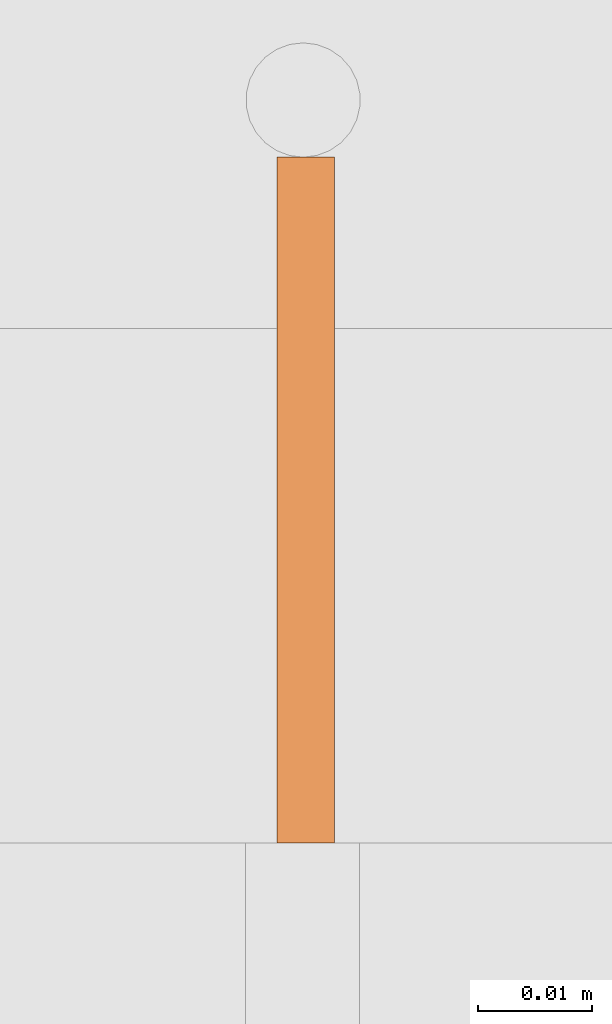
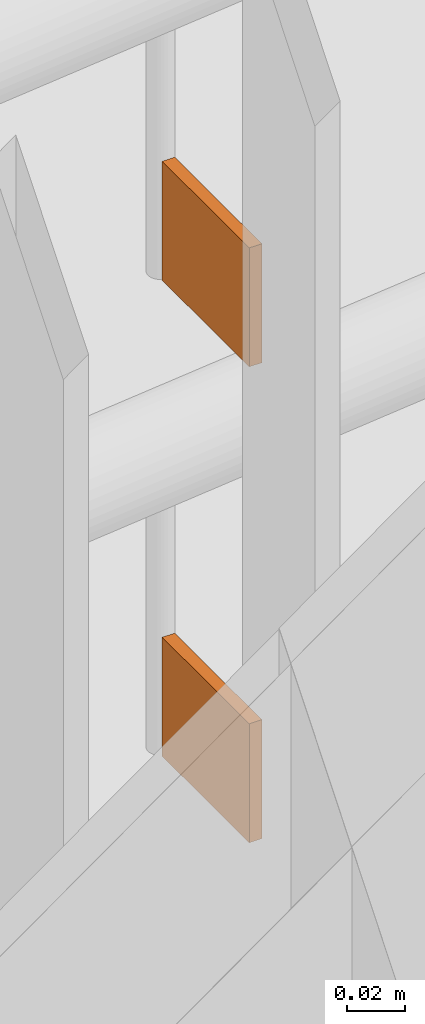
# One storey, part 378 of 418: 2 proxies.
"""IFC2X3 building model written with IfcOpenShell, lengths in millimetres."""

import ifcopenshell
import ifcopenshell.guid

model = None  # the IFC model being written
_history = None  # IfcOwnerHistory: only IFC2X3 demands one
_inside = {}  # id of a spatial element -> (the spatial element, [elements in it])
_under = {}  # id of a project, library or spatial element -> (it, [spatial elements below it])
_declared = {}  # id of a project -> (the project, [libraries it declares])
_typed = {}  # id of a type object -> (the type object, [elements of that type])
_made_of = {}  # id of a material, layer set ... -> (it, [elements and type objects made of it])


def new_model(schema):
    """Start an empty IFC model of exactly this schema.

    Asked for "IFC4X3", IfcOpenShell would pick the latest addendum, in which some entities
    have other attributes; the version numbers below select the first issue.
    IFC2X3 requires an IfcOwnerHistory on every rooted entity: one is made here for all.
    """
    global model, _history
    if schema == "IFC4X3":
        model = ifcopenshell.file(schema_version=(4, 3, 0, 0))
    else:
        model = ifcopenshell.file(schema=schema)
    _inside.clear()
    _under.clear()
    _declared.clear()
    _typed.clear()
    _made_of.clear()
    _history = None
    if model.schema == "IFC2X3":
        org = make("IfcOrganization", Name="unknown")
        user = make(
            "IfcPersonAndOrganization",
            ThePerson=make("IfcPerson", FamilyName="unknown"),
            TheOrganization=org,
        )
        app = make(
            "IfcApplication",
            ApplicationDeveloper=org,
            Version="unknown",
            ApplicationFullName="unknown",
            ApplicationIdentifier="unknown",
        )
        _history = make(
            "IfcOwnerHistory",
            OwningUser=user,
            OwningApplication=app,
            ChangeAction="ADDED",
            CreationDate=0,
        )
    return model


def make(cls, **values):
    """One entity of the class cls with the attributes given. An attribute that is None is left unset."""
    return model.create_entity(
        cls, **{name: value for name, value in values.items() if value is not None}
    )


def entity(cls, *values):
    """Any entity or typed value of the class cls, its attributes in the order of the schema. None: left unset."""
    e = model.create_entity(cls)
    for i, value in enumerate(values):
        if value is not None:
            e[i] = value
    return e


def rooted(cls, **values):
    """An entity with a GlobalId (a new one), such as an element, a storey or a relation."""
    return make(cls, GlobalId=ifcopenshell.guid.new(), OwnerHistory=_history, **values)


def si_unit(unit_type, name, prefix=None):
    """IfcSIUnit, for example si_unit("LENGTHUNIT", "METRE", prefix="MILLI")."""
    return make("IfcSIUnit", UnitType=unit_type, Prefix=prefix, Name=name)


def converted_unit(unit_type, name, factor, base, dimensions=None, offset=None):
    """IfcConversionBasedUnit, such as the inch: factor (a typed value) times the base unit."""
    return make(
        "IfcConversionBasedUnit"
        if offset is None
        else "IfcConversionBasedUnitWithOffset",
        ConversionOffset=offset,
        Dimensions=None
        if dimensions is None
        else entity("IfcDimensionalExponents", *dimensions),
        UnitType=unit_type,
        Name=name,
        ConversionFactor=make(
            "IfcMeasureWithUnit", ValueComponent=factor, UnitComponent=base
        ),
    )


def derived_unit(unit_type, elements):
    """IfcDerivedUnit: a product of units, each with its exponent."""
    return make(
        "IfcDerivedUnit",
        Elements=[
            make("IfcDerivedUnitElement", Unit=unit, Exponent=power)
            for unit, power in elements
        ],
        UnitType=unit_type,
    )


def money_unit(currency):
    """IfcMonetaryUnit."""
    return make("IfcMonetaryUnit", Currency=currency)


def assignment(units):
    """IfcUnitAssignment: the units of a project."""
    return None if units is None else make("IfcUnitAssignment", Units=units)


def point(xyz):
    """IfcCartesianPoint."""
    return None if xyz is None else make("IfcCartesianPoint", Coordinates=xyz)


def direction(xyz):
    """IfcDirection."""
    return None if xyz is None else make("IfcDirection", DirectionRatios=xyz)


def frame(location, z_axis=None, x_axis=None):
    """IfcAxis2Placement3D, a coordinate frame: its origin and axes. An axis left out is left unset."""
    return make(
        "IfcAxis2Placement3D",
        Location=point(location),
        Axis=direction(z_axis),
        RefDirection=direction(x_axis),
    )


def origin_with_axes():
    """The frame at (0, 0, 0) with the z axis (0, 0, 1) and the x axis (1, 0, 0) written out."""
    return frame((0.0, 0.0, 0.0), z_axis=(0.0, 0.0, 1.0), x_axis=(1.0, 0.0, 0.0))


def place(relative_to, where):
    """IfcLocalPlacement: puts the frame where relative to a parent placement (None: the world)."""
    return make(
        "IfcLocalPlacement", PlacementRelTo=relative_to, RelativePlacement=where
    )


def context(
    kind, dimensions, precision=None, world=None, true_north=None, identifier=None
):
    """IfcGeometricRepresentationContext, for example the 3D "Model" context."""
    return make(
        "IfcGeometricRepresentationContext",
        ContextIdentifier=identifier,
        ContextType=kind,
        CoordinateSpaceDimension=dimensions,
        Precision=precision,
        WorldCoordinateSystem=world,
        TrueNorth=true_north,
    )


def subcontext(parent, identifier, kind, view, scale=None):
    """IfcGeometricRepresentationSubContext, for example "Body" below "Model"."""
    return make(
        "IfcGeometricRepresentationSubContext",
        ContextIdentifier=identifier,
        ContextType=kind,
        ParentContext=parent,
        TargetScale=scale,
        TargetView=view,
    )


def project(units=None, contexts=None):
    """IfcProject with its units and contexts."""
    return rooted(
        "IfcProject",
        Name="project",
        RepresentationContexts=contexts,
        UnitsInContext=assignment(units),
    )


def spatial(cls, under=None, at=None, **own):
    """A site, building, storey or space (cls), placed at a placement, below another one or the project."""
    s = rooted(cls, ObjectPlacement=at, **own)
    if under is not None:
        _under.setdefault(under.id(), (under, []))[1].append(s)
    return s


def polyline(points):
    """IfcPolyline through the points."""
    return make("IfcPolyline", Points=[point(p) for p in points])


def outline(outer, holes=None, kind="AREA"):
    """IfcArbitraryClosedProfileDef: a profile drawn as a closed curve; with holes, ...WithVoids."""
    if holes is None:
        return make("IfcArbitraryClosedProfileDef", ProfileType=kind, OuterCurve=outer)
    return make(
        "IfcArbitraryProfileDefWithVoids",
        ProfileType=kind,
        OuterCurve=outer,
        InnerCurves=holes,
    )


def extrude(swept, where, along, depth):
    """IfcExtrudedAreaSolid: the profile swept, set in the frame where, extruded along a direction by depth."""
    return make(
        "IfcExtrudedAreaSolid",
        SweptArea=swept,
        Position=where,
        ExtrudedDirection=direction(along),
        Depth=depth,
    )


def shape(context_of_items, identifier, shape_type, items):
    """IfcShapeRepresentation: the items that make up one representation, for example the "Body"."""
    return make(
        "IfcShapeRepresentation",
        ContextOfItems=context_of_items,
        RepresentationIdentifier=identifier,
        RepresentationType=shape_type,
        Items=items,
    )


def material(Name=None, Category=None):
    """IfcMaterial."""
    return make("IfcMaterial", Name=Name, Category=Category)


def made_of(thing, what):
    """Note that an element or type object is made of a material, layer set ...; save() writes the relation."""
    if what is not None:
        _made_of.setdefault(what.id(), (what, []))[1].append(thing)
    return thing


def type_object(cls, material=None, **own):
    """A type object (cls), such as IfcWallType, which elements share."""
    return made_of(rooted(cls, **own), material)


def element(
    cls,
    number,
    at=None,
    inside=None,
    cuts=None,
    type_object=None,
    material=None,
    context=None,
    identifier="Body",
    shape_type=None,
    held_by="IfcProductDefinitionShape",
    body=None,
    shapes=None,
    **own,
):
    """One element of the class cls, such as IfcWall. Its Tag is "e" and its number.

    at: its placement. inside: the storey or other place that contains it. cuts: it is an
    opening in that element (IfcRelVoidsElement). A single representation is given by context,
    identifier, shape_type and body (its items); several are given by shapes. held_by: the class
    of the entity that holds the representations. save() writes the other relations.
    """
    e = rooted(cls, Tag="e%d" % number, ObjectPlacement=at, **own)
    if body is not None:
        shapes = [shape(context, identifier, shape_type, body)]
    if shapes is not None:
        e.Representation = make(held_by, Representations=shapes)
    if inside is not None:
        _inside.setdefault(inside.id(), (inside, []))[1].append(e)
    if cuts is not None:
        rooted(
            "IfcRelVoidsElement", RelatingBuildingElement=cuts, RelatedOpeningElement=e
        )
    if type_object is not None:
        _typed.setdefault(type_object.id(), (type_object, []))[1].append(e)
    return made_of(e, material)


def aggregate(whole, parts):
    """IfcRelAggregates: a whole, such as a stair, and the parts it consists of."""
    return rooted("IfcRelAggregates", RelatingObject=whole, RelatedObjects=parts)


def save(model, path):
    """Write the relations noted so far, then the file.

    IfcRelAggregates (storeys below a building ...), IfcRelContainedInSpatialStructure (elements
    in a storey), IfcRelDefinesByType, IfcRelAssociatesMaterial and IfcRelDeclares: one each for
    every whole, place, type object, material and project.
    """
    for whole, parts in _under.values():
        aggregate(whole, parts)
    for where, things in _inside.values():
        rooted(
            "IfcRelContainedInSpatialStructure",
            RelatedElements=things,
            RelatingStructure=where,
        )
    for kind, things in _typed.values():
        rooted("IfcRelDefinesByType", RelatedObjects=things, RelatingType=kind)
    for what, things in _made_of.values():
        rooted("IfcRelAssociatesMaterial", RelatedObjects=things, RelatingMaterial=what)
    for by, libraries in _declared.values():
        rooted("IfcRelDeclares", RelatingContext=by, RelatedDefinitions=libraries)
    model.write(path)


model = new_model("IFC2X3")

# Units and contexts
model_context = context("Model", 3, precision=0.01, world=origin_with_axes(), true_north=direction((0.0, 1.0)))
body_context = subcontext(model_context, "Body", "Model", "MODEL_VIEW")
ifc_project = project(units=[si_unit("LENGTHUNIT", "METRE", prefix="MILLI"), si_unit("AREAUNIT", "SQUARE_METRE"), si_unit("VOLUMEUNIT", "CUBIC_METRE"), converted_unit("PLANEANGLEUNIT", "DEGREE", entity("IfcPlaneAngleMeasure", 0.0174532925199), si_unit("PLANEANGLEUNIT", "RADIAN"), dimensions=[0, 0, 0, 0, 0, 0, 0]), si_unit("SOLIDANGLEUNIT", "STERADIAN"), money_unit("EUR"), converted_unit("TIMEUNIT", "Year", entity("IfcTimeMeasure", 31556926.0), si_unit("TIMEUNIT", "SECOND"), dimensions=[0, 0, 1, 0, 0, 0, 0]), si_unit("MASSUNIT", "GRAM", prefix="KILO"), si_unit("THERMODYNAMICTEMPERATUREUNIT", "DEGREE_CELSIUS"), si_unit("LUMINOUSINTENSITYUNIT", "LUMEN"), si_unit("ENERGYUNIT", "JOULE", prefix="MEGA"), derived_unit("THERMALCONDUCTANCEUNIT", [(si_unit("POWERUNIT", "WATT"), 1), (si_unit("LENGTHUNIT", "METRE"), -1), (si_unit("THERMODYNAMICTEMPERATUREUNIT", "KELVIN"), -1)]), derived_unit("SPECIFICHEATCAPACITYUNIT", [(si_unit("ENERGYUNIT", "JOULE"), 1), (si_unit("MASSUNIT", "GRAM", prefix="KILO"), -1), (si_unit("THERMODYNAMICTEMPERATUREUNIT", "KELVIN"), -1)]), derived_unit("MASSDENSITYUNIT", [(si_unit("MASSUNIT", "GRAM", prefix="KILO"), 1), (si_unit("VOLUMEUNIT", "CUBIC_METRE"), -1)])], contexts=[model_context])

# Site, building, storey
site_placement = place(None, origin_with_axes())
site = spatial("IfcSite", under=ifc_project, at=site_placement, Name="Paldiski mnt 245/1, Tallinn, Harjumaa", CompositionType="COMPLEX")
building_placement = place(site_placement, origin_with_axes())
building = spatial("IfcBuilding", under=site, at=building_placement, Name="RKAS Hoone üldnimetus (kasutust iseloomustav) -> IFC Project Manager -> SOLIBRI", CompositionType="ELEMENT")
storey_placement = place(building_placement, origin_with_axes())
storey = spatial("IfcBuildingStorey", under=building, at=storey_placement, Name="Esimene korrus", CompositionType="ELEMENT", Elevation=0.0)

# Proxies
ifc_material = material(Name="RAL 7011 Tumehall")
building_element_proxy_type = type_object("IfcBuildingElementProxyType", Name="RAL 7011 Tumehall 50", PredefinedType="NOTDEFINED")
proxy_1_placement = place(storey_placement, frame((-53720.5090291, 36519.8286725, 753.953624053), z_axis=(0.0, 0.0, 1.0), x_axis=(1.0, 0.0, 0.0)))
element("IfcBuildingElementProxy", 1, at=proxy_1_placement, inside=storey, type_object=building_element_proxy_type, material=ifc_material, Name="Piire", context=body_context, shape_type="SweptSolid", body=[
    extrude(outline(polyline([(0.0, 0.0), (0.0, 60.0), (-5.0, 60.0), (-5.0, 0.0), (0.0, 0.0)])), frame((0.0, 0.0, -50.0), z_axis=(0.0, 0.0, 1.0), x_axis=(1.0, 0.0, 0.0)), (0.0, 0.0, 1.0), 50.0),
])
proxy_2_placement = place(storey_placement, frame((-53720.5088306, 36519.8286725, 553.953574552), z_axis=(0.0, 0.0, 1.0), x_axis=(1.0, 0.0, 0.0)))
element("IfcBuildingElementProxy", 2, at=proxy_2_placement, inside=storey, type_object=building_element_proxy_type, material=ifc_material, Name="Piire", context=body_context, shape_type="SweptSolid", body=[
    extrude(outline(polyline([(0.0, 0.0), (0.0, 60.0), (-5.00000000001, 60.0), (-5.00000000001, 0.0), (0.0, 0.0)])), frame((0.0, 0.0, -50.0), z_axis=(0.0, 0.0, 1.0), x_axis=(1.0, 0.0, 0.0)), (0.0, 0.0, 1.0), 50.0),
])

save(model, "model.ifc")
